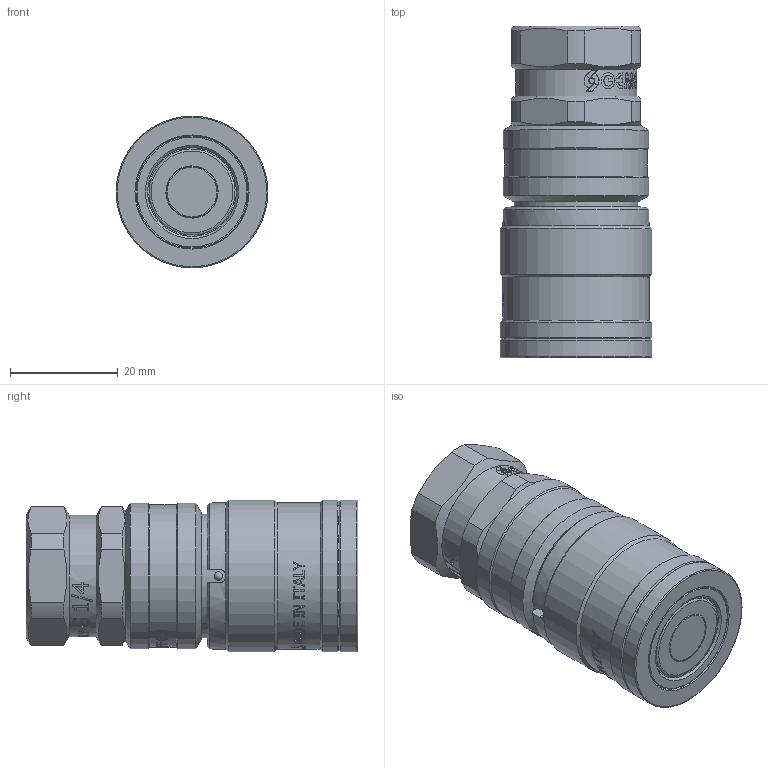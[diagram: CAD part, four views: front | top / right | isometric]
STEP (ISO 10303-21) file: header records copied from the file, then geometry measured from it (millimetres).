
FILE_DESCRIPTION(/* description */ (''),/* implementation_level */ '2;1');
FILE_NAME(/* name */ 'NC06G010000.stp',/* time_stamp */ '2026-03-18T09:37:06+01:00',/* author */ ('isabel.merisio'),/* organization */ (''),/* preprocessor_version */ 'ST-DEVELOPER v20',/* originating_system */ 'Autodesk Inventor 2024',/* authorisation */ '');
FILE_SCHEMA (('AUTOMOTIVE_DESIGN { 1 0 10303 214 3 1 1 }'));
Products named in the file (1): Parte2
Bounding box: 28.2 x 61.59 x 28.2 mm (x, y, z)
Volume: 32209.3 mm3; surface area: 7900.8 mm2
Topology: 1 solids, 4 shells, 1631 faces, 4631 edges, 3073 vertices
Faces by surface type: bspline 1073, plane 415, cylinder 111, cone 23, sphere 6, torus 3
Full cylindrical faces by diameter (mm): 1.5 x2, 9.7 x1, 11.445 x1, 20.4 x1, 20.8 x1, 22.463 x1, 22.5 x1, 23 x1, 23.4 x1, 26.5 x1, 27 x2, 27.2 x1, 28.2 x3
Entity records: 70590 total; most frequent: CARTESIAN_POINT 33666, ORIENTED_EDGE 9258, EDGE_CURVE 4629, DIRECTION 4042, VERTEX_POINT 3073, B_SPLINE_CURVE_WITH_KNOTS 2225, LINE 1828, VECTOR 1828
